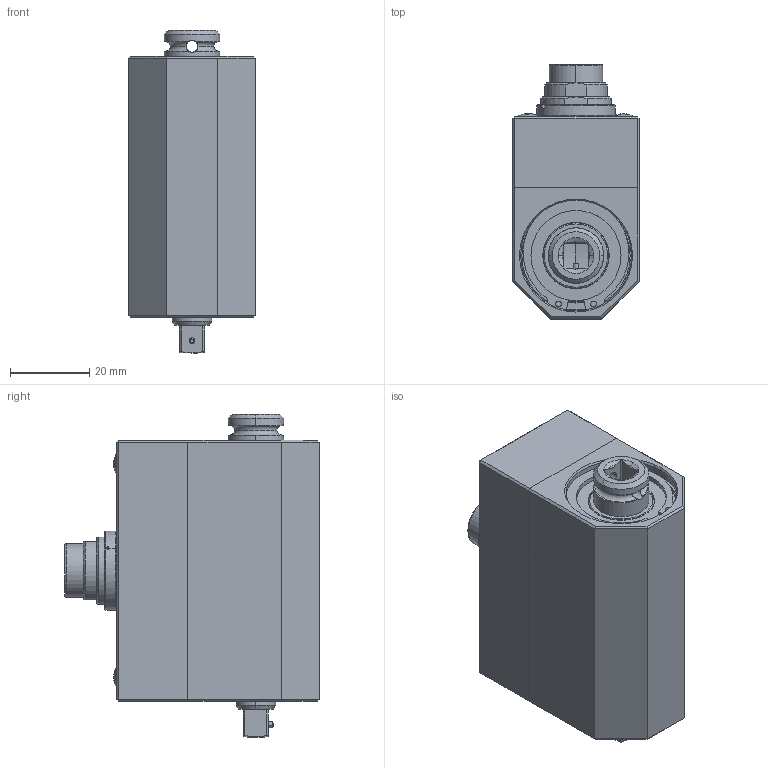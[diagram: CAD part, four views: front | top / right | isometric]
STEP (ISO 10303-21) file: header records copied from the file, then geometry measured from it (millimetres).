
FILE_DESCRIPTION (( 'STEP AP203' ), '1' );
FILE_NAME ('DRFN 1-4-w.STEP', '2012-10-29T10:19:09', ( 'nsi' ), ( '' ), 'SwSTEP 2.0', 'SolidWorks 2013', '' );
FILE_SCHEMA (( 'CONFIG_CONTROL_DESIGN' ));
Length unit declared in the file: millimetre
Products named in the file (1): DRFN 1-4-w
Bounding box: 32 x 64.3 x 81.7 mm (x, y, z)
Surface area: 21321.8 mm2 (no closed solid volume)
Topology: 0 solids, 20 shells, 376 faces, 1246 edges, 845 vertices
Faces by surface type: plane 123, cylinder 92, torus 56, cone 53, sphere 50, bspline 2
Entity records: 13900 total; most frequent: CARTESIAN_POINT 3717, DIRECTION 2220, ORIENTED_EDGE 1911, EDGE_CURVE 1136, AXIS2_PLACEMENT_3D 917, VERTEX_POINT 779, CIRCLE 542, EDGE_LOOP 428
